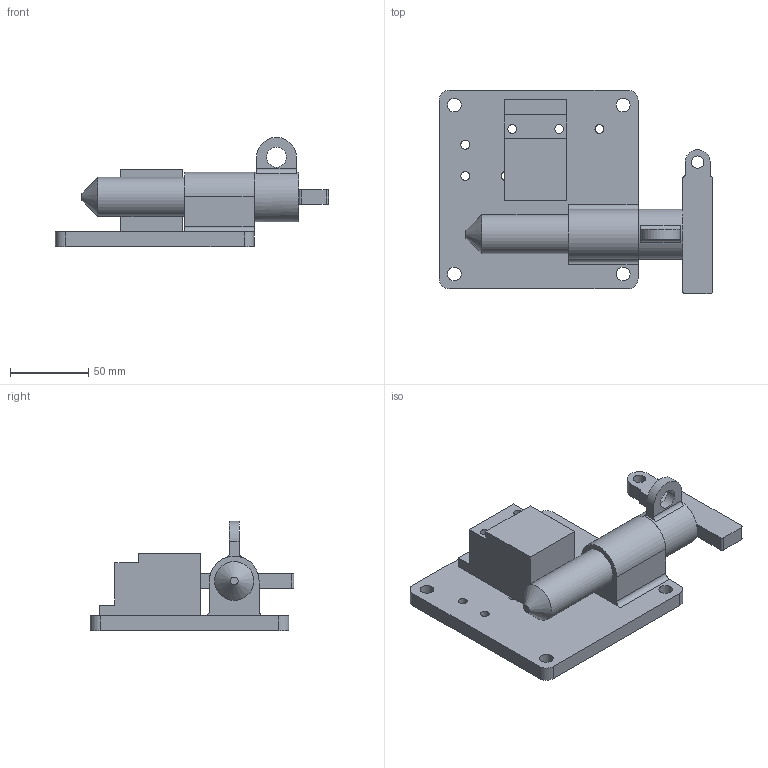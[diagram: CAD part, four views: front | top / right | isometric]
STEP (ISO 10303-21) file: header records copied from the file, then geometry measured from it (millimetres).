
FILE_DESCRIPTION(/* description */ (''),/* implementation_level */ '2;1');
FILE_NAME(/* name */ 'C:\Users\rcarver\Desktop\Tru-LOK pin\Ford-FCA\With Switch\SP25Y100TY00201.stp',/* time_stamp */ '2016-06-21T11:14:08-04:00',/* author */ ('rcarver'),/* organization */ (''),/* preprocessor_version */ 'ST-DEVELOPER v16.5',/* originating_system */ 'Autodesk Inventor 2017',/* authorisation */ '');
FILE_SCHEMA (('AUTOMOTIVE_DESIGN { 1 0 10303 214 3 1 1 }'));
Length unit declared in the file: millimetre
Products named in the file (1): SP25Y100TY00201
Bounding box: 174.62 x 130.18 x 69.85 mm (x, y, z)
Volume: 354025 mm3; surface area: 72018.6 mm2
Topology: 3 solids, 3 shells, 69 faces, 192 edges, 131 vertices
Faces by surface type: plane 37, cylinder 31, cone 1
Full cylindrical faces by diameter (mm): 5.588 x2, 5.59 x6, 7.94 x1, 8.74 x4, 12.7 x1, 25 x1, 31.75 x1
Entity records: 2196 total; most frequent: DIRECTION 368, CARTESIAN_POINT 346, ORIENTED_EDGE 320, EDGE_CURVE 160, AXIS2_PLACEMENT_3D 138, EDGE_LOOP 116, VERTEX_POINT 116, LINE 92
